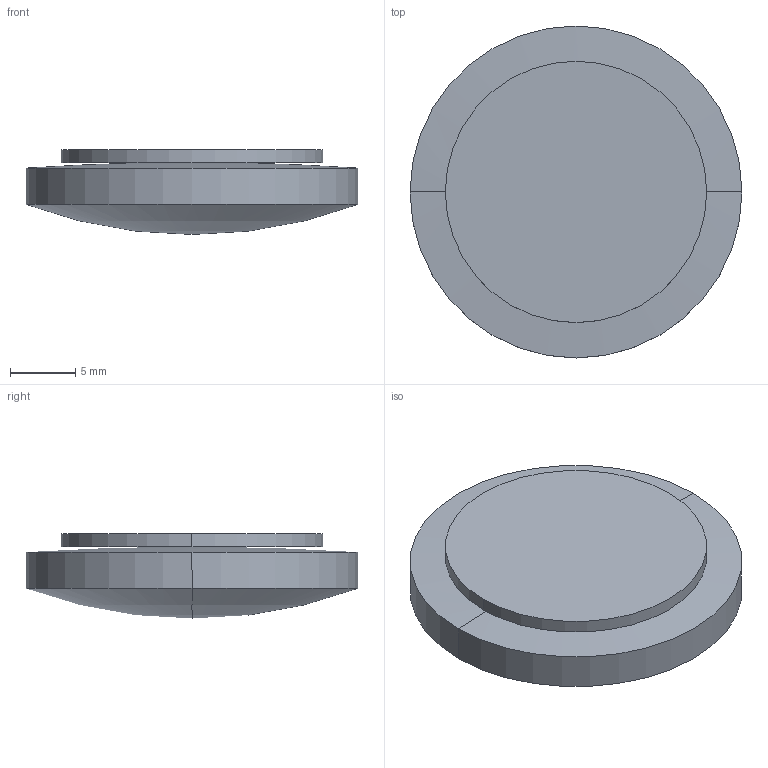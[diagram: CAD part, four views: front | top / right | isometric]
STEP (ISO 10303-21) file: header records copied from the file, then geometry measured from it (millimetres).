
FILE_DESCRIPTION(('STEP AP214'),'1');
FILE_NAME('LLU-25-63.STEP','2020-03-09T17:42:07',(' '),(' '),'Spatial InterOp 3D',' ',' ');
FILE_SCHEMA(('AUTOMOTIVE_DESIGN { 1 0 10303 214 1 1 1 1 }'));
Length unit declared in the file: millimetre
Products named in the file (1): 1
Bounding box: 25.4 x 25.4 x 6.5 mm (x, y, z)
Volume: 2419.1 mm3; surface area: 1943.8 mm2
Topology: 2 solids, 2 shells, 10 faces, 20 edges, 10 vertices
Faces by surface type: sphere 4, cylinder 4, plane 2
Entity records: 255 total; most frequent: DIRECTION 52, CARTESIAN_POINT 38, ORIENTED_EDGE 32, AXIS2_PLACEMENT_3D 24, EDGE_CURVE 16, CIRCLE 12, ADVANCED_FACE 10, FACE_OUTER_BOUND 10
